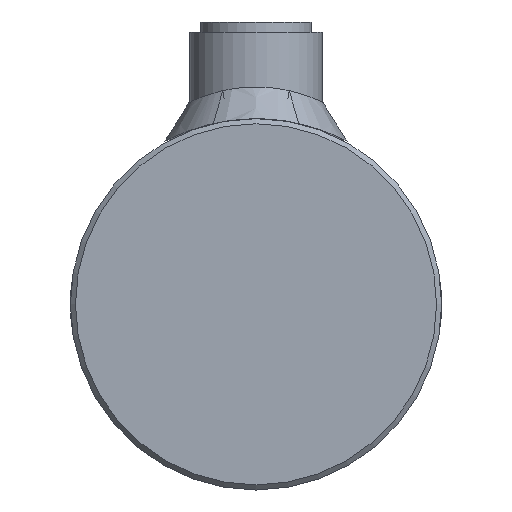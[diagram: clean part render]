
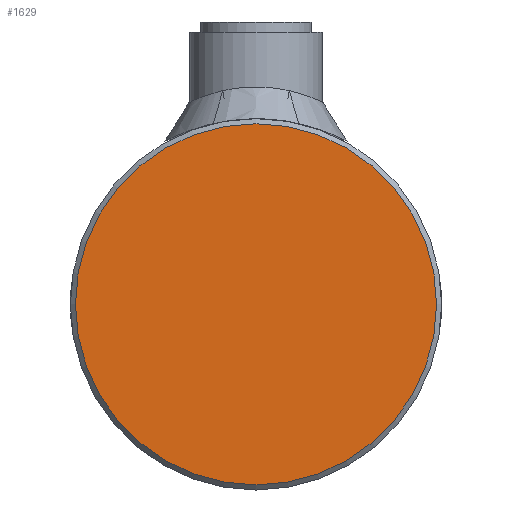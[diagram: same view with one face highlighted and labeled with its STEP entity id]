
A CAD part, left-side view. The second image highlights one B-rep face of the part: STEP entity #1629.
In plain terms, the highlighted planar face has unit normal (-1, 0, 0).
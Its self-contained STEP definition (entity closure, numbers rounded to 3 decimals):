
#1629 = ADVANCED_FACE( '', ( #4376 ), #4377, .T. );
#4376 = FACE_OUTER_BOUND( '', #5361, .T. );
#4377 = PLANE( '', #5362 );
#5361 = EDGE_LOOP( '', ( #5786 ) );
#5362 = AXIS2_PLACEMENT_3D( '', #5787, #5788, #5789 );
#5786 = ORIENTED_EDGE( '', *, *, #6428, .T. );
#5787 = CARTESIAN_POINT( '', ( -12., 0., 0. ) );
#5788 = DIRECTION( '', ( -1., 0., 0. ) );
#5789 = DIRECTION( '', ( 0., -1., 0. ) );
#6428 = EDGE_CURVE( '', #7882, #7882, #7883, .T. );
#7882 = VERTEX_POINT( '', #8355 );
#7883 = CIRCLE( '', #8356, 35.5 );
#8355 = CARTESIAN_POINT( '', ( -12., -35.5, 0. ) );
#8356 = AXIS2_PLACEMENT_3D( '', #8467, #8468, #8469 );
#8467 = CARTESIAN_POINT( '', ( -12., 0., 0. ) );
#8468 = DIRECTION( '', ( -1., 0., 0. ) );
#8469 = DIRECTION( '', ( 0., -1., 0. ) );
